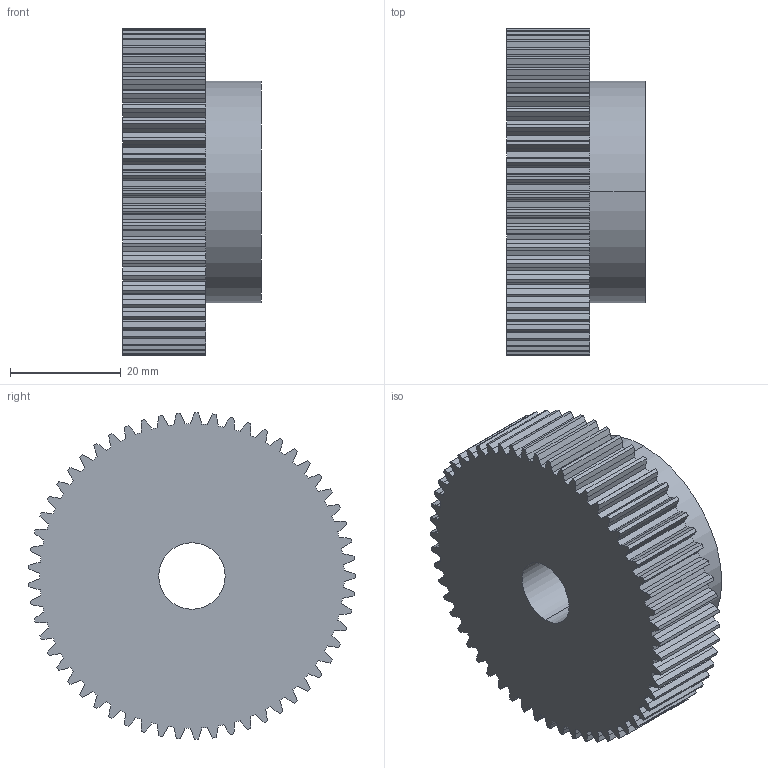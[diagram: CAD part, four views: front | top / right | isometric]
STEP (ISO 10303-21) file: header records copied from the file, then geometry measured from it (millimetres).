
FILE_DESCRIPTION (( 'STEP AP203' ), '1' );
FILE_NAME ('PM 26057.STEP', '2013-09-23T13:30:16', ( '' ), ( '' ), 'SwSTEP 2.0', 'SolidWorks 2010', '' );
FILE_SCHEMA (( 'CONFIG_CONTROL_DESIGN' ));
Length unit declared in the file: millimetre
Products named in the file (1): PM 26057
Bounding box: 25 x 58.97 x 58.99 mm (x, y, z)
Volume: 47729.7 mm3; surface area: 12111.5 mm2
Topology: 1 solids, 1 shells, 349 faces, 1038 edges, 692 vertices
Faces by surface type: plane 231, cylinder 118
Entity records: 11771 total; most frequent: CARTESIAN_POINT 2086, ORIENTED_EDGE 2076, DIRECTION 1972, EDGE_CURVE 1038, LINE 800, VECTOR 800, VERTEX_POINT 692, AXIS2_PLACEMENT_3D 586
